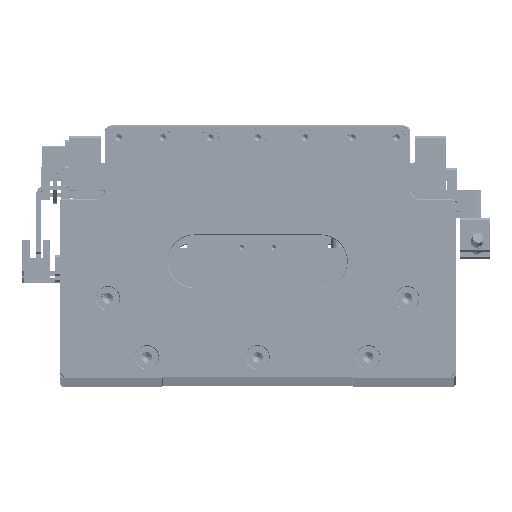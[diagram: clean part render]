
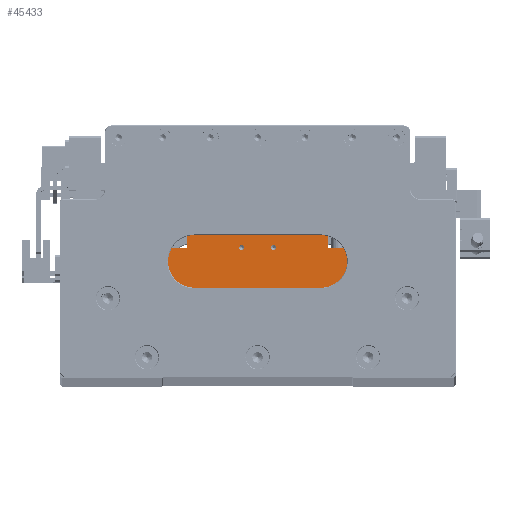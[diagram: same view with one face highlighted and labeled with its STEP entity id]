
A CAD part, top view. The second image highlights one B-rep face of the part: STEP entity #45433.
In plain terms, the highlighted planar face has unit normal (0, 0, 1).
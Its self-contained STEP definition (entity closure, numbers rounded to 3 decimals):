
#637 = ORIENTED_EDGE ( 'NONE', *, *, #33361, .T. ) ;
#1651 = CARTESIAN_POINT ( 'NONE',  ( 7.5, -8., 90. ) ) ;
#1954 = VERTEX_POINT ( 'NONE', #55245 ) ;
#2607 = CIRCLE ( 'NONE', #68983, 1.25 ) ;
#4482 = CARTESIAN_POINT ( 'NONE',  ( -7.5, -8., 90. ) ) ;
#4944 = CARTESIAN_POINT ( 'NONE',  ( 44.8, 0., 90. ) ) ;
#5323 = ORIENTED_EDGE ( 'NONE', *, *, #34646, .T. ) ;
#8082 = DIRECTION ( 'NONE',  ( -1., 0., 0. ) ) ;
#8438 = PLANE ( 'NONE',  #22311 ) ;
#9061 = AXIS2_PLACEMENT_3D ( 'NONE', #95515, #39490, #104899 ) ;
#11039 = DIRECTION ( 'NONE',  ( 1., 0., 0. ) ) ;
#12881 = VECTOR ( 'NONE', #43584, 1000. ) ;
#12947 = LINE ( 'NONE', #120033, #109490 ) ;
#13119 = VERTEX_POINT ( 'NONE', #56126 ) ;
#13855 = DIRECTION ( 'NONE',  ( 1., 0., 0. ) ) ;
#14696 = LINE ( 'NONE', #30344, #111187 ) ;
#17419 = CIRCLE ( 'NONE', #9061, 1.25 ) ;
#17840 = DIRECTION ( 'NONE',  ( 0., 0., 1. ) ) ;
#18571 = ORIENTED_EDGE ( 'NONE', *, *, #75925, .T. ) ;
#18581 = CARTESIAN_POINT ( 'NONE',  ( -6.25, -8., 90. ) ) ;
#20231 = VERTEX_POINT ( 'NONE', #68678 ) ;
#20442 = AXIS2_PLACEMENT_3D ( 'NONE', #4482, #69798, #13855 ) ;
#21639 = CARTESIAN_POINT ( 'NONE',  ( 8.75, -8., 90. ) ) ;
#22235 = DIRECTION ( 'NONE',  ( -1., 0., 0. ) ) ;
#22311 = AXIS2_PLACEMENT_3D ( 'NONE', #101627, #17840, #83199 ) ;
#22802 = CARTESIAN_POINT ( 'NONE',  ( 7.5, -8., 90. ) ) ;
#22981 = EDGE_CURVE ( 'NONE', #95320, #118429, #29327, .T. ) ;
#23948 = LINE ( 'NONE', #50399, #117478 ) ;
#25458 = FACE_BOUND ( 'NONE', #41561, .T. ) ;
#27589 = VERTEX_POINT ( 'NONE', #112760 ) ;
#29327 = CIRCLE ( 'NONE', #20442, 1.25 ) ;
#30344 = CARTESIAN_POINT ( 'NONE',  ( -33.5, 0., 90. ) ) ;
#30844 = ORIENTED_EDGE ( 'NONE', *, *, #92107, .T. ) ;
#32174 = DIRECTION ( 'NONE',  ( 1., 0., 0. ) ) ;
#32481 = CARTESIAN_POINT ( 'NONE',  ( 33.5, 0., 90. ) ) ;
#33361 = EDGE_CURVE ( 'NONE', #20231, #110254, #112466, .T. ) ;
#34646 = EDGE_CURVE ( 'NONE', #54835, #1954, #61254, .T. ) ;
#34886 = VERTEX_POINT ( 'NONE', #91835 ) ;
#34905 = EDGE_CURVE ( 'NONE', #66343, #62056, #12947, .T. ) ;
#35476 = CARTESIAN_POINT ( 'NONE',  ( -33.5, -8., 90. ) ) ;
#37735 = LINE ( 'NONE', #52569, #12881 ) ;
#37925 = LINE ( 'NONE', #32481, #112510 ) ;
#39490 = DIRECTION ( 'NONE',  ( 0., 0., -1. ) ) ;
#41561 = EDGE_LOOP ( 'NONE', ( #82460, #18571 ) ) ;
#42018 = DIRECTION ( 'NONE',  ( -1., 0., 0. ) ) ;
#42285 = EDGE_CURVE ( 'NONE', #112173, #27589, #113545, .T. ) ;
#43584 = DIRECTION ( 'NONE',  ( 1., 0., 0. ) ) ;
#45433 = ADVANCED_FACE ( 'NONE', ( #94146, #25458, #119028 ), #8438, .T. ) ;
#45731 = EDGE_CURVE ( 'NONE', #110254, #34886, #23948, .T. ) ;
#50399 = CARTESIAN_POINT ( 'NONE',  ( 0., -8., 90. ) ) ;
#52569 = CARTESIAN_POINT ( 'NONE',  ( -45., -40., 90. ) ) ;
#53789 = ORIENTED_EDGE ( 'NONE', *, *, #70380, .T. ) ;
#54835 = VERTEX_POINT ( 'NONE', #61927 ) ;
#54959 = ORIENTED_EDGE ( 'NONE', *, *, #90729, .T. ) ;
#55245 = CARTESIAN_POINT ( 'NONE',  ( -33.5, -0.2, 90. ) ) ;
#56126 = CARTESIAN_POINT ( 'NONE',  ( -45., -40., 90. ) ) ;
#58298 = VECTOR ( 'NONE', #42018, 1000. ) ;
#60249 = ORIENTED_EDGE ( 'NONE', *, *, #22981, .T. ) ;
#61254 = LINE ( 'NONE', #98045, #58298 ) ;
#61730 = LINE ( 'NONE', #101254, #80772 ) ;
#61927 = CARTESIAN_POINT ( 'NONE',  ( 33.5, -0.2, 90. ) ) ;
#62056 = VERTEX_POINT ( 'NONE', #95679 ) ;
#64002 = DIRECTION ( 'NONE',  ( 0., -1., 0. ) ) ;
#65969 = CARTESIAN_POINT ( 'NONE',  ( 44.8, -8., 90. ) ) ;
#66343 = VERTEX_POINT ( 'NONE', #35476 ) ;
#66547 = EDGE_LOOP ( 'NONE', ( #86699, #53789, #30844, #637, #87886, #114032, #5323, #54959 ) ) ;
#66983 = DIRECTION ( 'NONE',  ( 0., 0., -1. ) ) ;
#68678 = CARTESIAN_POINT ( 'NONE',  ( 44.8, -40., 90. ) ) ;
#68983 = AXIS2_PLACEMENT_3D ( 'NONE', #22802, #88145, #32174 ) ;
#69798 = DIRECTION ( 'NONE',  ( 0., 0., -1. ) ) ;
#70380 = EDGE_CURVE ( 'NONE', #62056, #13119, #61730, .T. ) ;
#72358 = EDGE_CURVE ( 'NONE', #34886, #54835, #37925, .T. ) ;
#75925 = EDGE_CURVE ( 'NONE', #27589, #112173, #2607, .T. ) ;
#80772 = VECTOR ( 'NONE', #64002, 1000. ) ;
#82460 = ORIENTED_EDGE ( 'NONE', *, *, #42285, .T. ) ;
#83199 = DIRECTION ( 'NONE',  ( 1., 0., 0. ) ) ;
#86699 = ORIENTED_EDGE ( 'NONE', *, *, #34905, .T. ) ;
#87611 = VECTOR ( 'NONE', #98517, 1000. ) ;
#87886 = ORIENTED_EDGE ( 'NONE', *, *, #45731, .T. ) ;
#88145 = DIRECTION ( 'NONE',  ( 0., 0., -1. ) ) ;
#90729 = EDGE_CURVE ( 'NONE', #1954, #66343, #14696, .T. ) ;
#91827 = EDGE_CURVE ( 'NONE', #118429, #95320, #17419, .T. ) ;
#91835 = CARTESIAN_POINT ( 'NONE',  ( 33.5, -8., 90. ) ) ;
#92107 = EDGE_CURVE ( 'NONE', #13119, #20231, #37735, .T. ) ;
#94146 = FACE_OUTER_BOUND ( 'NONE', #66547, .T. ) ;
#94746 = EDGE_LOOP ( 'NONE', ( #109607, #60249 ) ) ;
#95320 = VERTEX_POINT ( 'NONE', #104605 ) ;
#95515 = CARTESIAN_POINT ( 'NONE',  ( -7.5, -8., 90. ) ) ;
#95679 = CARTESIAN_POINT ( 'NONE',  ( -45., -8., 90. ) ) ;
#95706 = AXIS2_PLACEMENT_3D ( 'NONE', #1651, #66983, #11039 ) ;
#95768 = DIRECTION ( 'NONE',  ( 0., -1., 0. ) ) ;
#97918 = DIRECTION ( 'NONE',  ( 0., 1., 0. ) ) ;
#98045 = CARTESIAN_POINT ( 'NONE',  ( 0., -0.2, 90. ) ) ;
#98517 = DIRECTION ( 'NONE',  ( 0., 1., 0. ) ) ;
#101254 = CARTESIAN_POINT ( 'NONE',  ( -45., 0., 90. ) ) ;
#101627 = CARTESIAN_POINT ( 'NONE',  ( 0., 0., 90. ) ) ;
#104605 = CARTESIAN_POINT ( 'NONE',  ( -8.75, -8., 90. ) ) ;
#104899 = DIRECTION ( 'NONE',  ( 1., 0., 0. ) ) ;
#109490 = VECTOR ( 'NONE', #8082, 1000. ) ;
#109607 = ORIENTED_EDGE ( 'NONE', *, *, #91827, .T. ) ;
#110254 = VERTEX_POINT ( 'NONE', #65969 ) ;
#111187 = VECTOR ( 'NONE', #95768, 1000. ) ;
#112173 = VERTEX_POINT ( 'NONE', #21639 ) ;
#112466 = LINE ( 'NONE', #4944, #87611 ) ;
#112510 = VECTOR ( 'NONE', #97918, 1000. ) ;
#112760 = CARTESIAN_POINT ( 'NONE',  ( 6.25, -8., 90. ) ) ;
#113545 = CIRCLE ( 'NONE', #95706, 1.25 ) ;
#114032 = ORIENTED_EDGE ( 'NONE', *, *, #72358, .T. ) ;
#117478 = VECTOR ( 'NONE', #22235, 1000. ) ;
#118429 = VERTEX_POINT ( 'NONE', #18581 ) ;
#119028 = FACE_BOUND ( 'NONE', #94746, .T. ) ;
#120033 = CARTESIAN_POINT ( 'NONE',  ( 0., -8., 90. ) ) ;
